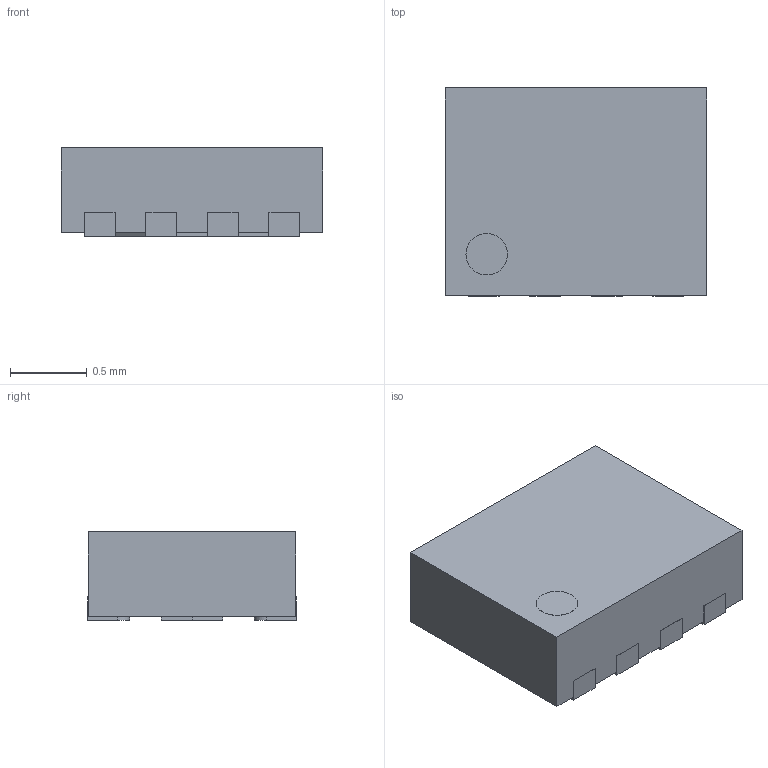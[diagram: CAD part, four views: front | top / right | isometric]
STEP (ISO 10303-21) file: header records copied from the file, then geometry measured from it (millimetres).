
FILE_DESCRIPTION(/* description */ (''),/* implementation_level */ '2;1');
FILE_NAME(/* name */ 'K:\ba\DCC\STP_Files\LLP1713-9L_3906_04_001\39060401.stp',/* time_stamp */ '2014-12-29T10:18:09+01:00',/* author */ ('brotzinger'),/* organization */ (''),/* preprocessor_version */ 'ST-DEVELOPER v15.2',/* originating_system */ 'Autodesk Inventor 2014',/* authorisation */ '');
FILE_SCHEMA (('AUTOMOTIVE_DESIGN { 1 0 10303 214 3 1 1 }'));
Length unit declared in the file: millimetre
Products named in the file (1): 39060401
Bounding box: 1.7 x 1.35 x 0.58 mm (x, y, z)
Volume: 1.3 mm3; surface area: 8.2 mm2
Topology: 1 solids, 1 shells, 78 faces, 222 edges, 148 vertices
Faces by surface type: plane 61, cylinder 17
Full cylindrical faces by diameter (mm): 0.27 x1
Entity records: 2617 total; most frequent: CARTESIAN_POINT 448, ORIENTED_EDGE 442, DIRECTION 413, EDGE_CURVE 221, LINE 187, VECTOR 187, VERTEX_POINT 148, AXIS2_PLACEMENT_3D 113
